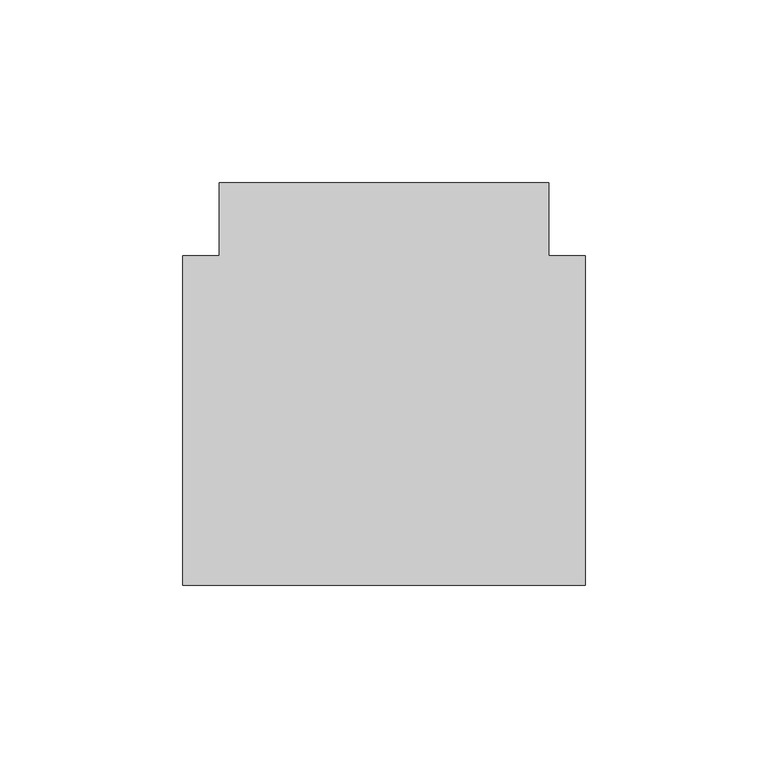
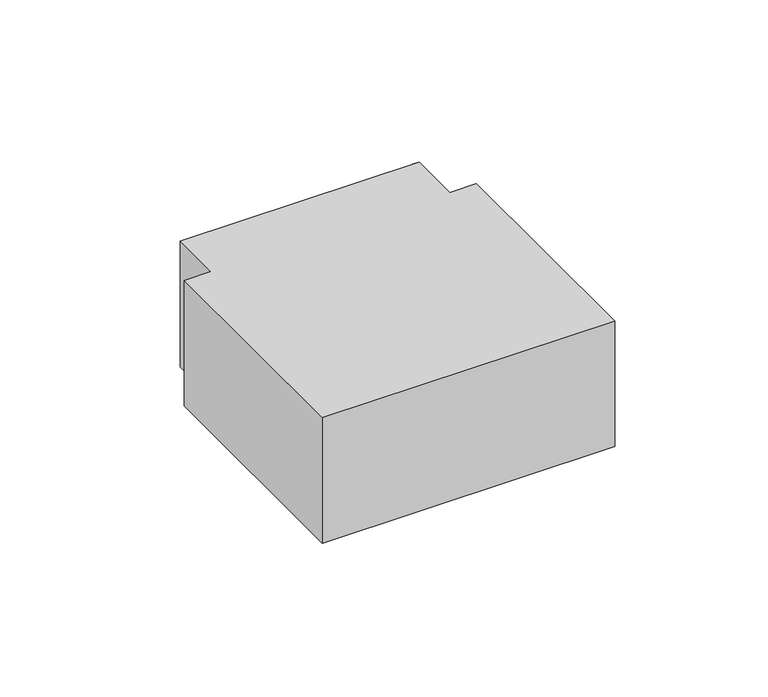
"""IFC4 building model written with IfcOpenShell, lengths in millimetres: cable carrier fitting geometry, КНС_Тройник_ILF_DKC : Белый."""

from ifc_helpers import new_model, si_unit, frame, origin, place, context, project, spatial, polyline, outline, extrude, faceted_brep, source, transform, mapped, element, save


def cable_carrier_fitting_0c0028f7(model_context):
    return source(origin(), model_context, "Body", "SolidModel", [
        extrude(outline(polyline([(-45.0, 45.0), (-45.0, 65.0), (45.0, 65.0), (45.0, 45.0), (55.0, 45.0), (55.0, -45.0), (-55.0, -45.0), (-55.0, 45.0), (-45.0, 45.0)])), frame((0.0, 0.0, -25.0), z_axis=(0.0, 0.0, 1.0), x_axis=(1.0, 0.0, 0.0)), (0.0, 0.0, 1.0), 50.0),
        faceted_brep([(55.0, -42.46, -22.46), (55.0, 42.46, -22.46), (42.46, 42.46, -22.46), (42.46, 65.0, -22.46), (-42.46, 65.0, -22.46), (-42.46, 42.46, -22.46), (-55.0, 42.46, -22.46), (-55.0, -42.46, -22.46), (55.0, -45.0, -25.0), (-55.0, -45.0, -25.0), (-55.0, 45.0, -25.0), (-45.0, 45.0, -25.0), (-45.0, 65.0, -25.0), (45.0, 65.0, -25.0), (45.0, 45.0, -25.0), (55.0, 45.0, -25.0), (55.0, 45.0, 25.0), (55.0, 42.46, 25.0), (55.0, -42.46, 25.0), (55.0, -45.0, 25.0), (44.96, 45.0, 25.0), (45.0, 65.0, 25.0), (-44.96, 65.0, 25.0), (-42.46, 65.0, 25.0), (42.46, 65.0, 25.0), (-45.0, 45.0, 25.0), (-55.0, 45.0, 25.0), (-55.0, -45.0, 25.0), (-55.0, -42.46, 25.0), (-55.0, 42.46, 25.0), (42.46, 42.46, 25.0), (-42.46, 42.46, 25.0)], [[[0, 1, 2, 3, 4, 5, 6, 7]], [[8, 9, 10, 11, 12, 13, 14, 15]], [[8, 15, 16, 17, 1, 0, 18, 19]], [[16, 15, 14, 20]], [[20, 14, 13, 21]], [[21, 13, 12, 22, 23, 4, 3, 24]], [[22, 12, 11, 25]], [[25, 11, 10, 26]], [[26, 10, 9, 27, 28, 7, 6, 29]], [[27, 9, 8, 19]], [[20, 21, 24, 30, 17, 16]], [[25, 26, 29, 31, 23, 22]], [[27, 19, 18, 28]], [[31, 29, 6, 5]], [[23, 31, 5, 4]], [[30, 24, 3, 2]], [[17, 30, 2, 1]], [[28, 18, 0, 7]]]),
    ])


if __name__ == "__main__":
    model = new_model("IFC4")
    model_context = context("Model", 3, world=origin())
    ifc_project = project(units=[si_unit("LENGTHUNIT", "METRE", prefix="MILLI")], contexts=[model_context])
    site = spatial("IfcSite", under=ifc_project)
    building = spatial("IfcBuilding", under=site)
    placement = place(None, origin())
    cable_carrier_fitting_shape = cable_carrier_fitting_0c0028f7(model_context)
    element("IfcCableCarrierFitting", 1, ObjectType="КНС_Тройник_ILF_DKC : Белый", at=placement, inside=building, context=model_context, shape_type="MappedRepresentation", body=[
        mapped(cable_carrier_fitting_shape, transform((0.0, 0.0, 0.0), x_axis=(1.0, 0.0, 0.0), y_axis=(0.0, 1.0, 0.0), z_axis=(0.0, 0.0, 1.0))),
    ])
    save(model, "model.ifc")
